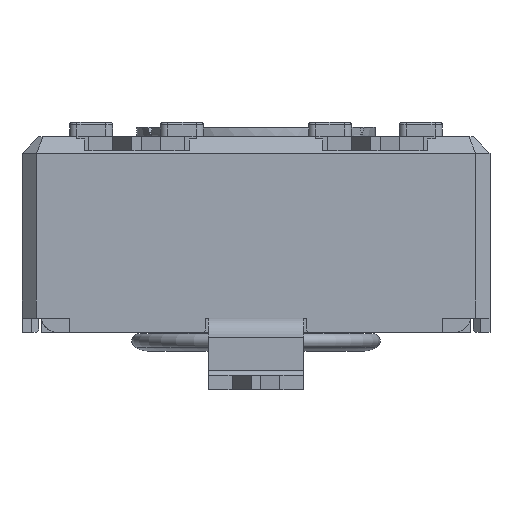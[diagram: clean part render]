
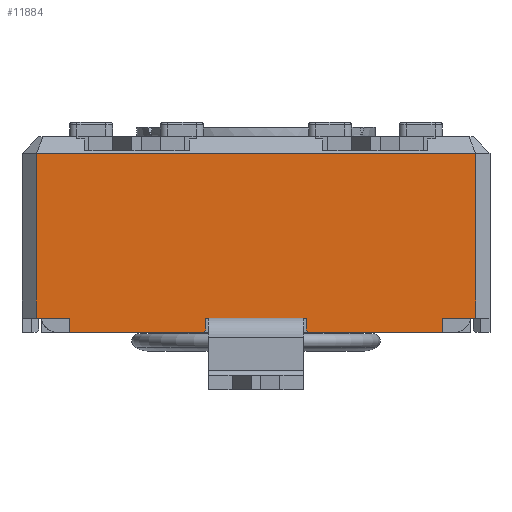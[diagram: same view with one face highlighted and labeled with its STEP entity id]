
A CAD part, front view. The second image highlights one B-rep face of the part: STEP entity #11884.
In plain terms, the highlighted planar face has unit normal (0, -1, 0).
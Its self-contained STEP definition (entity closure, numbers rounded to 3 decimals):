
#1023=FACE_OUTER_BOUND('',#1633,.T.);
#1633=EDGE_LOOP('',(#10499,#10500,#10501,#10502,#10503,#10504,#10505,#10506,
#10507,#10508,#10509,#10510,#10511,#10512,#10513,#10514));
#1702=LINE('',#16053,#3098);
#2311=LINE('',#17514,#3707);
#2317=LINE('',#17526,#3713);
#2325=LINE('',#17542,#3721);
#2331=LINE('',#17553,#3727);
#2495=LINE('',#18074,#3891);
#2501=LINE('',#18084,#3897);
#2504=LINE('',#18091,#3900);
#2517=LINE('',#18116,#3913);
#2573=LINE('',#18224,#3969);
#2575=LINE('',#18229,#3971);
#2577=LINE('',#18232,#3973);
#2579=LINE('',#18237,#3975);
#2769=LINE('',#18696,#4165);
#3012=LINE('',#19257,#4408);
#3014=LINE('',#19264,#4410);
#3098=VECTOR('',#12899,10.);
#3707=VECTOR('',#14188,10.);
#3713=VECTOR('',#14194,10.);
#3721=VECTOR('',#14204,10.);
#3727=VECTOR('',#14210,10.);
#3891=VECTOR('',#14682,10.);
#3897=VECTOR('',#14690,10.);
#3900=VECTOR('',#14697,10.);
#3913=VECTOR('',#14718,10.);
#3969=VECTOR('',#14818,10.);
#3971=VECTOR('',#14826,10.);
#3973=VECTOR('',#14830,10.);
#3975=VECTOR('',#14838,10.);
#4165=VECTOR('',#15276,10.);
#4408=VECTOR('',#15815,10.);
#4410=VECTOR('',#15827,10.);
#4474=VERTEX_POINT('',#16005);
#4487=VERTEX_POINT('',#16052);
#4999=VERTEX_POINT('',#17513);
#5004=VERTEX_POINT('',#17523);
#5005=VERTEX_POINT('',#17525);
#5011=VERTEX_POINT('',#17539);
#5012=VERTEX_POINT('',#17541);
#5017=VERTEX_POINT('',#17551);
#5165=VERTEX_POINT('',#18072);
#5166=VERTEX_POINT('',#18073);
#5169=VERTEX_POINT('',#18082);
#5170=VERTEX_POINT('',#18089);
#5171=VERTEX_POINT('',#18090);
#5179=VERTEX_POINT('',#18115);
#5329=VERTEX_POINT('',#18693);
#5330=VERTEX_POINT('',#18695);
#5588=EDGE_CURVE('',#4487,#4474,#1702,.T.);
#6323=EDGE_CURVE('',#4999,#4487,#2311,.T.);
#6329=EDGE_CURVE('',#5005,#5004,#2317,.T.);
#6337=EDGE_CURVE('',#5012,#5011,#2325,.T.);
#6343=EDGE_CURVE('',#4474,#5017,#2331,.T.);
#6585=EDGE_CURVE('',#5165,#5166,#2495,.T.);
#6591=EDGE_CURVE('',#5165,#5169,#2501,.T.);
#6594=EDGE_CURVE('',#5170,#5171,#2504,.T.);
#6607=EDGE_CURVE('',#5179,#5171,#2517,.T.);
#6663=EDGE_CURVE('',#4999,#5170,#2573,.T.);
#6665=EDGE_CURVE('',#5004,#5179,#2575,.T.);
#6667=EDGE_CURVE('',#5012,#5169,#2577,.T.);
#6669=EDGE_CURVE('',#5017,#5166,#2579,.T.);
#6896=EDGE_CURVE('',#5329,#5330,#2769,.T.);
#7175=EDGE_CURVE('',#5330,#5011,#3012,.T.);
#7177=EDGE_CURVE('',#5329,#5005,#3014,.T.);
#10499=ORIENTED_EDGE('',*,*,#6585,.F.);
#10500=ORIENTED_EDGE('',*,*,#6591,.T.);
#10501=ORIENTED_EDGE('',*,*,#6667,.F.);
#10502=ORIENTED_EDGE('',*,*,#6337,.T.);
#10503=ORIENTED_EDGE('',*,*,#7175,.F.);
#10504=ORIENTED_EDGE('',*,*,#6896,.F.);
#10505=ORIENTED_EDGE('',*,*,#7177,.T.);
#10506=ORIENTED_EDGE('',*,*,#6329,.T.);
#10507=ORIENTED_EDGE('',*,*,#6665,.T.);
#10508=ORIENTED_EDGE('',*,*,#6607,.T.);
#10509=ORIENTED_EDGE('',*,*,#6594,.F.);
#10510=ORIENTED_EDGE('',*,*,#6663,.F.);
#10511=ORIENTED_EDGE('',*,*,#6323,.T.);
#10512=ORIENTED_EDGE('',*,*,#5588,.T.);
#10513=ORIENTED_EDGE('',*,*,#6343,.T.);
#10514=ORIENTED_EDGE('',*,*,#6669,.T.);
#11093=PLANE('',#12765);
#11884=ADVANCED_FACE('',(#1023),#11093,.T.);
#12765=AXIS2_PLACEMENT_3D('',#19265,#15828,#15829);
#12899=DIRECTION('',(1.,0.,0.));
#14188=DIRECTION('',(1.,0.,0.));
#14194=DIRECTION('',(1.,0.,0.));
#14204=DIRECTION('',(1.,0.,0.));
#14210=DIRECTION('',(1.,0.,0.));
#14682=DIRECTION('',(-0.707,0.,0.707));
#14690=DIRECTION('',(1.,0.,0.));
#14697=DIRECTION('',(-0.707,0.,-0.707));
#14718=DIRECTION('',(1.,0.,0.));
#14818=DIRECTION('',(0.,0.,-1.));
#14826=DIRECTION('',(0.,0.,-1.));
#14830=DIRECTION('',(0.,0.,-1.));
#14838=DIRECTION('',(0.,0.,-1.));
#15276=DIRECTION('',(1.,0.,0.));
#15815=DIRECTION('',(0.,0.,-1.));
#15827=DIRECTION('',(0.,0.,-1.));
#15828=DIRECTION('center_axis',(0.,-1.,0.));
#15829=DIRECTION('ref_axis',(0.,0.,-1.));
#16005=CARTESIAN_POINT('',(-25.448,-17.99,-3.8));
#16052=CARTESIAN_POINT('',(-27.448,-17.99,-3.8));
#16053=CARTESIAN_POINT('',(-21.848,-17.99,-3.8));
#17513=CARTESIAN_POINT('',(-27.498,-17.99,-3.8));
#17514=CARTESIAN_POINT('',(-21.848,-17.99,-3.8));
#17523=CARTESIAN_POINT('',(-30.348,-17.99,-3.8));
#17525=CARTESIAN_POINT('',(-31.048,-17.99,-3.8));
#17526=CARTESIAN_POINT('',(-21.848,-17.99,-3.8));
#17539=CARTESIAN_POINT('',(-21.848,-17.99,-3.8));
#17541=CARTESIAN_POINT('',(-22.548,-17.99,-3.8));
#17542=CARTESIAN_POINT('',(-21.848,-17.99,-3.8));
#17551=CARTESIAN_POINT('',(-25.398,-17.99,-3.8));
#17553=CARTESIAN_POINT('',(-21.848,-17.99,-3.8));
#18072=CARTESIAN_POINT('',(-25.348,-17.99,-4.1));
#18073=CARTESIAN_POINT('',(-25.398,-17.99,-4.05));
#18074=CARTESIAN_POINT('',(-27.81,-17.99,-1.637));
#18082=CARTESIAN_POINT('',(-22.548,-17.99,-4.1));
#18084=CARTESIAN_POINT('',(-21.848,-17.99,-4.1));
#18089=CARTESIAN_POINT('',(-27.498,-17.99,-4.05));
#18090=CARTESIAN_POINT('',(-27.548,-17.99,-4.1));
#18091=CARTESIAN_POINT('',(-27.385,-17.99,-3.938));
#18115=CARTESIAN_POINT('',(-30.348,-17.99,-4.1));
#18116=CARTESIAN_POINT('',(-21.848,-17.99,-4.1));
#18224=CARTESIAN_POINT('',(-27.498,-17.99,-3.8));
#18229=CARTESIAN_POINT('',(-30.348,-17.99,-3.8));
#18232=CARTESIAN_POINT('',(-22.548,-17.99,-3.8));
#18237=CARTESIAN_POINT('',(-25.398,-17.99,-3.8));
#18693=CARTESIAN_POINT('',(-31.048,-17.99,-0.35));
#18695=CARTESIAN_POINT('',(-21.848,-17.99,-0.35));
#18696=CARTESIAN_POINT('',(-28.748,-17.99,-0.35));
#19257=CARTESIAN_POINT('',(-21.848,-17.99,0.));
#19264=CARTESIAN_POINT('',(-31.048,-17.99,0.));
#19265=CARTESIAN_POINT('Origin',(-31.048,-17.99,0.));
